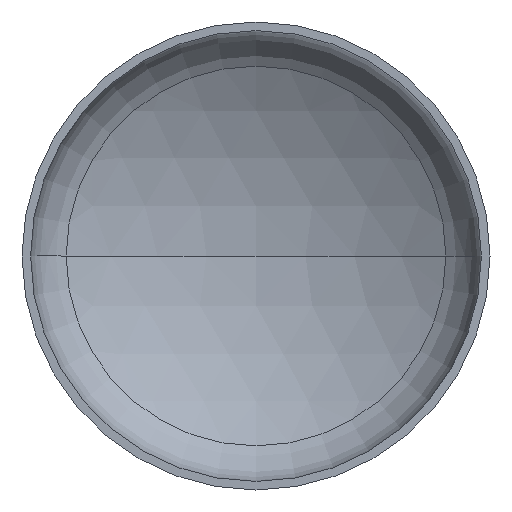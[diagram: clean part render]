
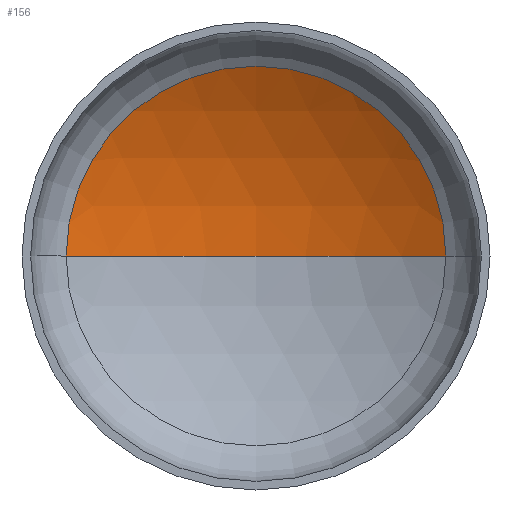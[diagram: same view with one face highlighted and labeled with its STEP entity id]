
A CAD part, front view. The second image highlights one B-rep face of the part: STEP entity #156.
In plain terms, the highlighted spherical face has radius 1040 mm.
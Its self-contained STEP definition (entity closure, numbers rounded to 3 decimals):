
#3 = DIRECTION ( 'NONE',  ( 0., -1., 0. ) ) ;
#13 = ORIENTED_EDGE ( 'NONE', *, *, #100, .F. ) ;
#15 = ORIENTED_EDGE ( 'NONE', *, *, #94, .T. ) ;
#29 = AXIS2_PLACEMENT_3D ( 'NONE', #239, #252, #224 ) ;
#34 = AXIS2_PLACEMENT_3D ( 'NONE', #169, #172, #194 ) ;
#36 = AXIS2_PLACEMENT_3D ( 'NONE', #235, #398, #39 ) ;
#38 = AXIS2_PLACEMENT_3D ( 'NONE', #345, #3, #230 ) ;
#39 = DIRECTION ( 'NONE',  ( -1., 0., 0. ) ) ;
#61 = VERTEX_POINT ( 'NONE', #318 ) ;
#83 = EDGE_CURVE ( 'NONE', #61, #407, #88, .T. ) ;
#88 = CIRCLE ( 'NONE', #38, 527.429 ) ;
#94 = EDGE_CURVE ( 'NONE', #341, #61, #371, .T. ) ;
#100 = EDGE_CURVE ( 'NONE', #341, #407, #303, .T. ) ;
#113 = ORIENTED_EDGE ( 'NONE', *, *, #83, .T. ) ;
#142 = FACE_OUTER_BOUND ( 'NONE', #354, .T. ) ;
#155 = CARTESIAN_POINT ( 'NONE',  ( 0., 391.036, 0. ) ) ;
#156 = ADVANCED_FACE ( 'NONE', ( #142 ), #365, .F. ) ;
#169 = CARTESIAN_POINT ( 'NONE',  ( 0., -648.964, 0. ) ) ;
#172 = DIRECTION ( 'NONE',  ( 0., 0., 1. ) ) ;
#194 = DIRECTION ( 'NONE',  ( 1., 0., 0. ) ) ;
#224 = DIRECTION ( 'NONE',  ( -1., 0., 0. ) ) ;
#230 = DIRECTION ( 'NONE',  ( 1., 0., 0. ) ) ;
#235 = CARTESIAN_POINT ( 'NONE',  ( 0., -648.964, 0. ) ) ;
#239 = CARTESIAN_POINT ( 'NONE',  ( 0., -648.964, 0. ) ) ;
#244 = CARTESIAN_POINT ( 'NONE',  ( -527.429, 247.372, 0. ) ) ;
#252 = DIRECTION ( 'NONE',  ( 0., 0., -1. ) ) ;
#303 = CIRCLE ( 'NONE', #34, 1040. ) ;
#318 = CARTESIAN_POINT ( 'NONE',  ( 527.429, 247.372, 0. ) ) ;
#341 = VERTEX_POINT ( 'NONE', #155 ) ;
#345 = CARTESIAN_POINT ( 'NONE',  ( 0., 247.372, 0. ) ) ;
#354 = EDGE_LOOP ( 'NONE', ( #13, #15, #113 ) ) ;
#365 = SPHERICAL_SURFACE ( 'NONE', #29, 1040. ) ;
#371 = CIRCLE ( 'NONE', #36, 1040. ) ;
#398 = DIRECTION ( 'NONE',  ( 0., 0., -1. ) ) ;
#407 = VERTEX_POINT ( 'NONE', #244 ) ;
